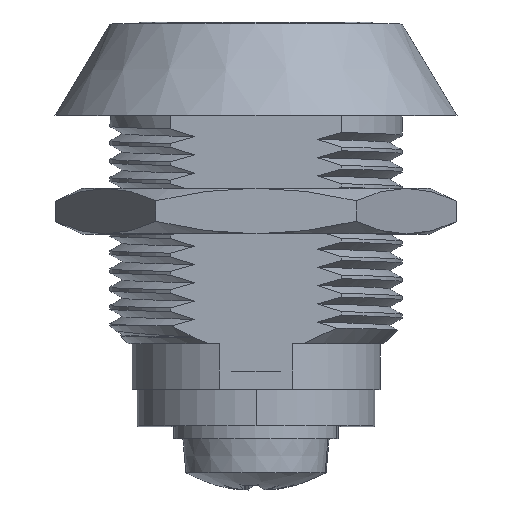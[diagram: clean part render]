
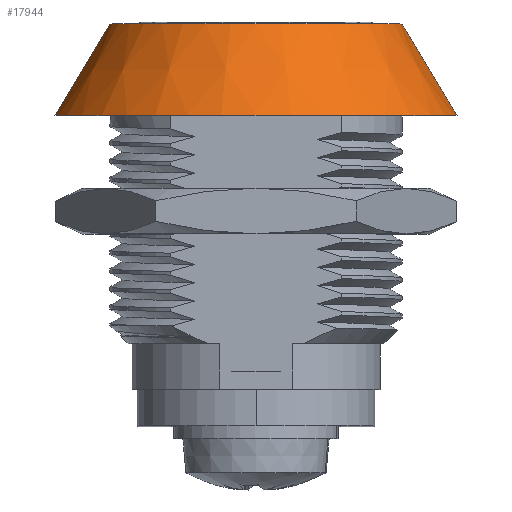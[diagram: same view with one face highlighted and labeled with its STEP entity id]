
A CAD part, top view. The second image highlights one B-rep face of the part: STEP entity #17944.
In plain terms, the highlighted conical face has half-angle 30.964 degrees and reference radius 11 mm.
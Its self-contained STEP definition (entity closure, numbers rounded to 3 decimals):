
#790 = ORIENTED_EDGE ( 'NONE', *, *, #14041, .T. ) ;
#1597 = CARTESIAN_POINT ( 'NONE',  ( 0., 15., 11. ) ) ;
#2181 = VERTEX_POINT ( 'NONE', #24858 ) ;
#2217 = LINE ( 'NONE', #2982, #24859 ) ;
#2804 = CONICAL_SURFACE ( 'NONE', #14207, 11., 0.54 ) ;
#2982 = CARTESIAN_POINT ( 'NONE',  ( 0., 15., 11. ) ) ;
#3526 = FACE_OUTER_BOUND ( 'NONE', #10425, .T. ) ;
#4645 = DIRECTION ( 'NONE',  ( 0., -1., 0. ) ) ;
#5400 = AXIS2_PLACEMENT_3D ( 'NONE', #17812, #4645, #19946 ) ;
#5786 = ORIENTED_EDGE ( 'NONE', *, *, #10196, .T. ) ;
#6860 = CARTESIAN_POINT ( 'NONE',  ( 0., 15., -11. ) ) ;
#7438 = CARTESIAN_POINT ( 'NONE',  ( 0., 15., 0. ) ) ;
#7578 = VERTEX_POINT ( 'NONE', #20366 ) ;
#8301 = DIRECTION ( 'NONE',  ( 0., -1., 0. ) ) ;
#9613 = DIRECTION ( 'NONE',  ( 0., 0., -1. ) ) ;
#10196 = EDGE_CURVE ( 'NONE', #2181, #7578, #26226, .T. ) ;
#10425 = EDGE_LOOP ( 'NONE', ( #5786, #790, #27277, #12961 ) ) ;
#10463 = CARTESIAN_POINT ( 'NONE',  ( 0., 15., 0. ) ) ;
#12961 = ORIENTED_EDGE ( 'NONE', *, *, #20958, .F. ) ;
#13191 = LINE ( 'NONE', #14633, #24093 ) ;
#13980 = DIRECTION ( 'NONE',  ( 0., -0.857, 0.514 ) ) ;
#14041 = EDGE_CURVE ( 'NONE', #7578, #17102, #2217, .T. ) ;
#14207 = AXIS2_PLACEMENT_3D ( 'NONE', #10463, #8301, #19250 ) ;
#14633 = CARTESIAN_POINT ( 'NONE',  ( 0., 15., -11. ) ) ;
#17102 = VERTEX_POINT ( 'NONE', #1597 ) ;
#17548 = EDGE_CURVE ( 'NONE', #25507, #17102, #28177, .T. ) ;
#17812 = CARTESIAN_POINT ( 'NONE',  ( 0., 20., 0. ) ) ;
#17944 = ADVANCED_FACE ( 'NONE', ( #3526 ), #2804, .T. ) ;
#19250 = DIRECTION ( 'NONE',  ( 0., 0., -1. ) ) ;
#19946 = DIRECTION ( 'NONE',  ( 0., 0., -1. ) ) ;
#20366 = CARTESIAN_POINT ( 'NONE',  ( 0., 20., 8. ) ) ;
#20958 = EDGE_CURVE ( 'NONE', #2181, #25507, #13191, .T. ) ;
#22658 = DIRECTION ( 'NONE',  ( 0., -1., 0. ) ) ;
#24093 = VECTOR ( 'NONE', #27667, 1000. ) ;
#24858 = CARTESIAN_POINT ( 'NONE',  ( 0., 20., -8. ) ) ;
#24859 = VECTOR ( 'NONE', #13980, 1000. ) ;
#25507 = VERTEX_POINT ( 'NONE', #6860 ) ;
#26226 = CIRCLE ( 'NONE', #5400, 8. ) ;
#27277 = ORIENTED_EDGE ( 'NONE', *, *, #17548, .F. ) ;
#27667 = DIRECTION ( 'NONE',  ( 0., -0.857, -0.514 ) ) ;
#27887 = AXIS2_PLACEMENT_3D ( 'NONE', #7438, #22658, #9613 ) ;
#28177 = CIRCLE ( 'NONE', #27887, 11. ) ;
